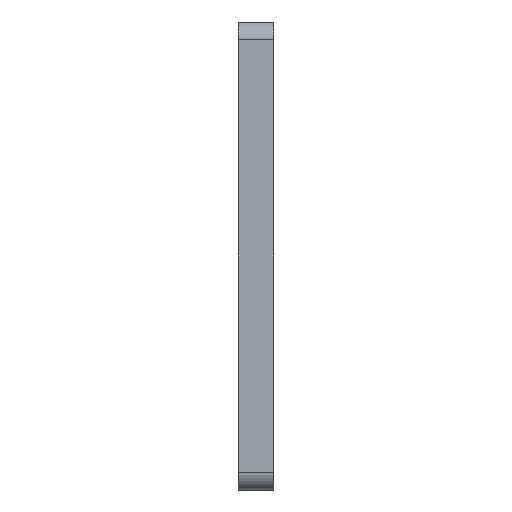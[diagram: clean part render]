
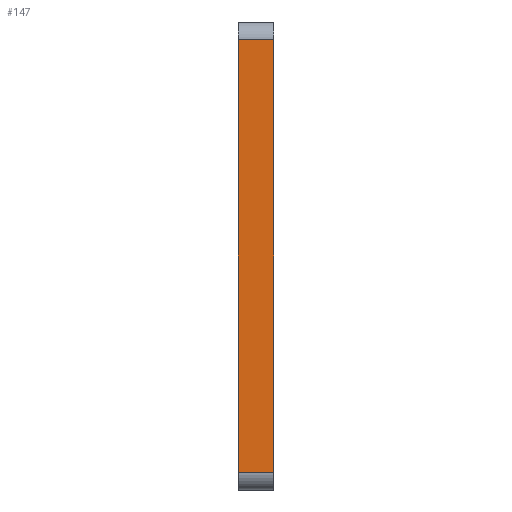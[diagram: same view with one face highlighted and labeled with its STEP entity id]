
A CAD part, left-side view. The second image highlights one B-rep face of the part: STEP entity #147.
In plain terms, the highlighted planar face has unit normal (-1, 0, 0).
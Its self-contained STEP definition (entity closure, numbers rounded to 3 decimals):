
#99=PLANE('',#1400);
#147=ADVANCED_FACE('NONE',(#247),#99,.F.);
#247=FACE_OUTER_BOUND('',#333,.T.);
#333=EDGE_LOOP('',(#838,#839,#840,#841));
#418=LINE('',#2037,#514);
#421=LINE('',#2050,#517);
#435=LINE('',#2087,#531);
#442=LINE('',#2113,#538);
#514=VECTOR('',#1633,1.);
#517=VECTOR('',#1644,1.);
#531=VECTOR('',#1680,1.);
#538=VECTOR('',#1717,1.);
#838=ORIENTED_EDGE('',*,*,#1176,.F.);
#839=ORIENTED_EDGE('',*,*,#1133,.T.);
#840=ORIENTED_EDGE('',*,*,#1155,.T.);
#841=ORIENTED_EDGE('',*,*,#1127,.T.);
#994=VERTEX_POINT('',#2035);
#996=VERTEX_POINT('',#2038);
#999=VERTEX_POINT('',#2045);
#1001=VERTEX_POINT('',#2049);
#1127=EDGE_CURVE('NONE',#996,#994,#418,.T.);
#1133=EDGE_CURVE('NONE',#999,#1001,#421,.T.);
#1155=EDGE_CURVE('NONE',#1001,#996,#435,.T.);
#1176=EDGE_CURVE('NONE',#999,#994,#442,.T.);
#1400=AXIS2_PLACEMENT_3D('',#2141,#1765,#1766);
#1633=DIRECTION('',(0.,1.,0.));
#1644=DIRECTION('',(0.,-1.,0.));
#1680=DIRECTION('',(0.,0.,1.));
#1717=DIRECTION('',(0.,0.,1.));
#1765=DIRECTION('',(1.,0.,0.));
#1766=DIRECTION('',(0.,0.,-1.));
#2035=CARTESIAN_POINT('',(-176.,6.,37.));
#2037=CARTESIAN_POINT('',(-176.,6.,37.));
#2038=CARTESIAN_POINT('',(-176.,0.,37.));
#2045=CARTESIAN_POINT('',(-176.,6.,-37.));
#2049=CARTESIAN_POINT('',(-176.,0.,-37.));
#2050=CARTESIAN_POINT('',(-176.,6.,-37.));
#2087=CARTESIAN_POINT('',(-176.,0.,40.));
#2113=CARTESIAN_POINT('',(-176.,6.,40.));
#2141=CARTESIAN_POINT('',(-176.,6.,40.));
